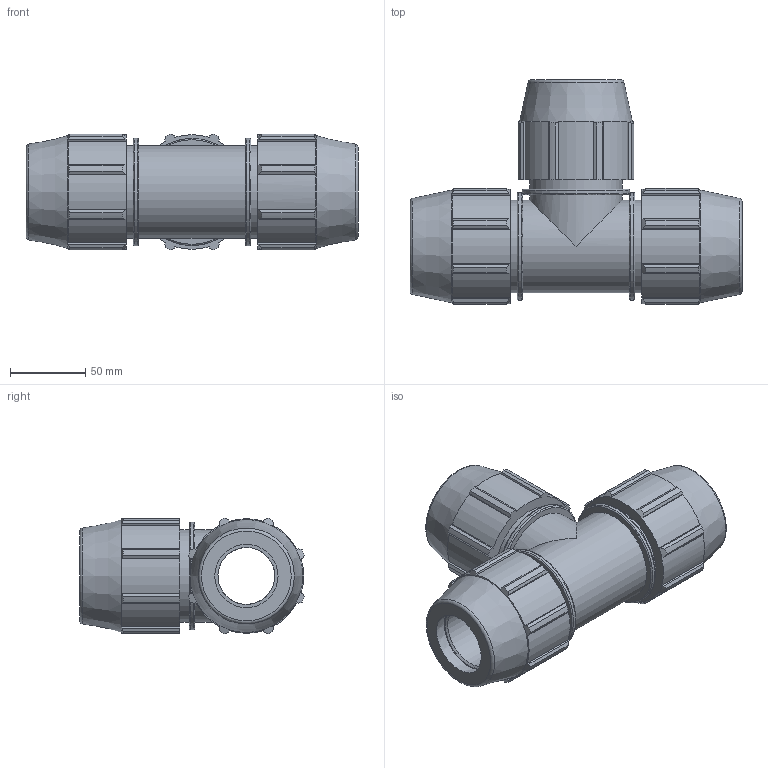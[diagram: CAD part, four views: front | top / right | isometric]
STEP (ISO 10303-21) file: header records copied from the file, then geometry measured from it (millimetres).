
FILE_DESCRIPTION(/* description */ ('PLASSON TEE 1 1/4'''' - 1 1/4'''' - 1 1/4'''''),/* implementation_level */ '2;1');
FILE_NAME(/* name */ 'C:\Dropbox\KIMPROJECTS-Inventor 2019\99-16-3568-Processing Inch\ASTM Compression 2021\0704M0\0704M0130.ipt.stp',/* time_stamp */ '2021-08-26T12:31:25+03:00',/* author */ ('KIM'),/* organization */ (''),/* preprocessor_version */ 'ST-DEVELOPER v17.2',/* originating_system */ 'Autodesk Inventor 2019',/* authorisation */ '');
FILE_SCHEMA (('AUTOMOTIVE_DESIGN { 1 0 10303 214 3 1 1 }'));
Length unit declared in the file: inch
Products named in the file (1): 0704M0130
Bounding box: 220.98 x 149.6 x 77.2 mm (x, y, z)
Volume: 758472.5 mm3; surface area: 126507 mm2
Topology: 1 solids, 1 shells, 212 faces, 632 edges, 433 vertices
Faces by surface type: plane 114, cylinder 61, cone 28, torus 9
Full cylindrical faces by diameter (mm): 37.89 x2, 42.1 x3, 61.531 x5, 71.377 x3
Entity records: 7559 total; most frequent: CARTESIAN_POINT 1563, ORIENTED_EDGE 1264, DIRECTION 1198, EDGE_CURVE 632, AXIS2_PLACEMENT_3D 442, VERTEX_POINT 433, LINE 314, VECTOR 314
